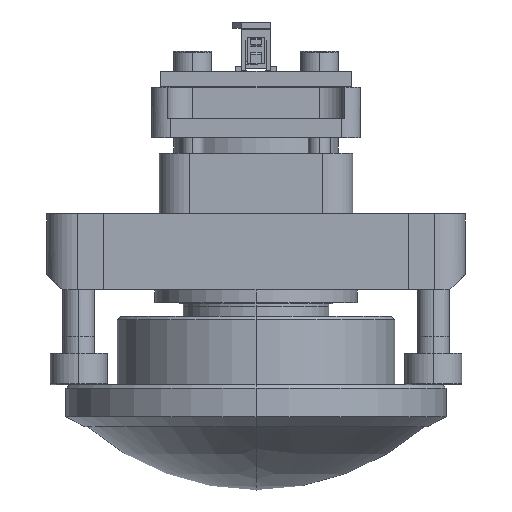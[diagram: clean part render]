
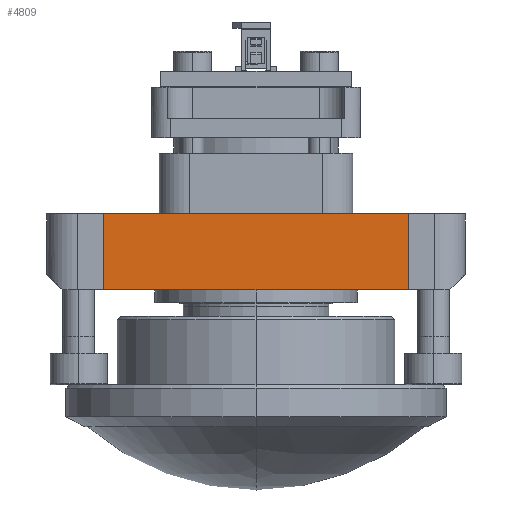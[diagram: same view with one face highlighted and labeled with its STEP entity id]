
A CAD part, front view. The second image highlights one B-rep face of the part: STEP entity #4809.
In plain terms, the highlighted planar face has unit normal (0, -1, 0).
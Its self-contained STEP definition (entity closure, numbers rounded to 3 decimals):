
#1042=PLANE('',#60072);
#4809=ADVANCED_FACE('',(#7422),#1042,.T.);
#7422=FACE_OUTER_BOUND('',#10119,.F.);
#10119=EDGE_LOOP('',(#15065,#15066,#15067,#15068));
#15065=ORIENTED_EDGE('',*,*,#46466,.F.);
#15066=ORIENTED_EDGE('',*,*,#46585,.T.);
#15067=ORIENTED_EDGE('',*,*,#46503,.T.);
#15068=ORIENTED_EDGE('',*,*,#46584,.T.);
#33731=LINE('',#80408,#39702);
#33757=LINE('',#80445,#39728);
#33780=LINE('',#80588,#39751);
#33781=LINE('',#80589,#39752);
#39702=VECTOR('',#65842,24.);
#39728=VECTOR('',#65890,24.);
#39751=VECTOR('',#66015,6.);
#39752=VECTOR('',#66016,6.);
#46466=EDGE_CURVE('',#54885,#54884,#33731,.T.);
#46503=EDGE_CURVE('',#54847,#54846,#33757,.T.);
#46584=EDGE_CURVE('',#54846,#54884,#33780,.T.);
#46585=EDGE_CURVE('',#54885,#54847,#33781,.T.);
#54846=VERTEX_POINT('',#80364);
#54847=VERTEX_POINT('',#80365);
#54884=VERTEX_POINT('',#80402);
#54885=VERTEX_POINT('',#80403);
#60072=AXIS2_PLACEMENT_3D('',#80918,#66460,#66461);
#65842=DIRECTION('',(-1.,0.,0.));
#65890=DIRECTION('',(-1.,0.,0.));
#66015=DIRECTION('',(0.,0.,1.));
#66016=DIRECTION('',(0.,0.,-1.));
#66460=DIRECTION('',(0.,-1.,0.));
#66461=DIRECTION('',(-1.,0.,0.));
#80364=CARTESIAN_POINT('',(-12.,-7.,0.));
#80365=CARTESIAN_POINT('',(12.,-7.,0.));
#80402=CARTESIAN_POINT('',(-12.,-7.,6.));
#80403=CARTESIAN_POINT('',(12.,-7.,6.));
#80408=CARTESIAN_POINT('',(12.,-7.,6.));
#80445=CARTESIAN_POINT('',(12.,-7.,0.));
#80588=CARTESIAN_POINT('',(-12.,-7.,0.));
#80589=CARTESIAN_POINT('',(12.,-7.,6.));
#80918=CARTESIAN_POINT('',(12.24,-7.,6.24));
